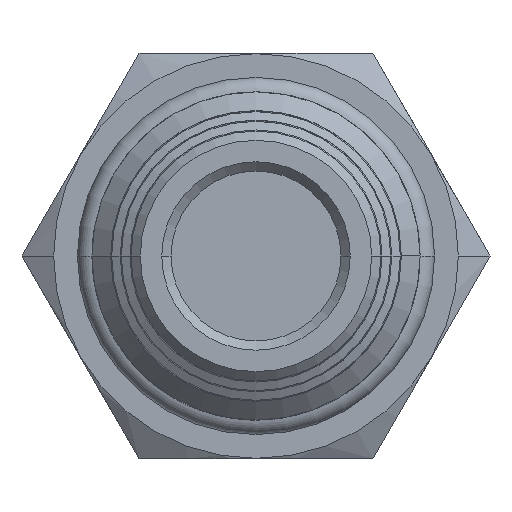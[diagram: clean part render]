
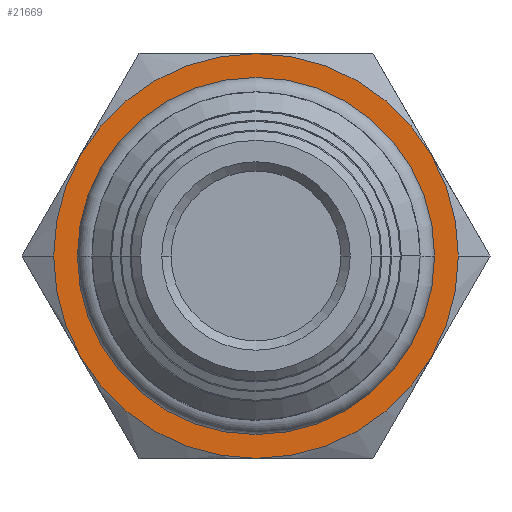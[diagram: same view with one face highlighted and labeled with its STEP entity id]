
A CAD part, front view. The second image highlights one B-rep face of the part: STEP entity #21669.
In plain terms, the highlighted planar face has unit normal (0, -1, 0).
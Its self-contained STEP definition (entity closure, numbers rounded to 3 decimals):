
#1004=CARTESIAN_POINT('',(0.,-12.7,0.));
#1005=DIRECTION('',(0.,1.,0.));
#1006=DIRECTION('',(1.,0.,0.));
#1007=AXIS2_PLACEMENT_3D('',#1004,#1005,#1006);
#1009=CARTESIAN_POINT('',(0.,-12.7,0.));
#1010=DIRECTION('',(0.,-1.,0.));
#1011=DIRECTION('',(1.,0.,0.));
#1012=AXIS2_PLACEMENT_3D('',#1009,#1010,#1011);
#1014=CARTESIAN_POINT('',(0.,-12.7,0.));
#1015=DIRECTION('',(0.,1.,0.));
#1016=DIRECTION('',(-1.,0.,0.));
#1017=AXIS2_PLACEMENT_3D('',#1014,#1015,#1016);
#1019=CARTESIAN_POINT('',(0.,-12.7,0.));
#1020=DIRECTION('',(0.,1.,0.));
#1021=DIRECTION('',(1.,0.,0.));
#1022=AXIS2_PLACEMENT_3D('',#1019,#1020,#1021);
#20756=CARTESIAN_POINT('',(16.637,-12.7,0.));
#20758=VERTEX_POINT('',#20756);
#20760=CARTESIAN_POINT('',(-16.637,-12.7,0.));
#20762=VERTEX_POINT('',#20760);
#21374=CARTESIAN_POINT('',(-13.332,-12.7,0.));
#21375=CARTESIAN_POINT('',(13.332,-12.7,0.));
#21376=VERTEX_POINT('',#21374);
#21377=VERTEX_POINT('',#21375);
#21654=CARTESIAN_POINT('',(0.,-12.7,0.));
#21655=DIRECTION('',(0.,1.,0.));
#21656=DIRECTION('',(1.,0.,0.));
#21657=AXIS2_PLACEMENT_3D('',#21654,#21655,#21656);
#21658=PLANE('',#21657);
#21659=ORIENTED_EDGE('',*,*,#21649,.T.);
#21660=ORIENTED_EDGE('',*,*,#21633,.F.);
#21661=EDGE_LOOP('',(#21659,#21660));
#21662=FACE_OUTER_BOUND('',#21661,.F.);
#21664=ORIENTED_EDGE('',*,*,#21663,.F.);
#21666=ORIENTED_EDGE('',*,*,#21665,.F.);
#21667=EDGE_LOOP('',(#21664,#21666));
#21668=FACE_BOUND('',#21667,.F.);
#21669=ADVANCED_FACE('',(#21662,#21668),#21658,.F.);
#1008=CIRCLE('',#1007,16.637);
#1013=CIRCLE('',#1012,16.637);
#1018=CIRCLE('',#1017,13.332);
#1023=CIRCLE('',#1022,13.332);
#21633=EDGE_CURVE('',#20758,#20762,#1013,.T.);
#21649=EDGE_CURVE('',#20758,#20762,#1008,.T.);
#21663=EDGE_CURVE('',#21376,#21377,#1018,.T.);
#21665=EDGE_CURVE('',#21377,#21376,#1023,.T.);
